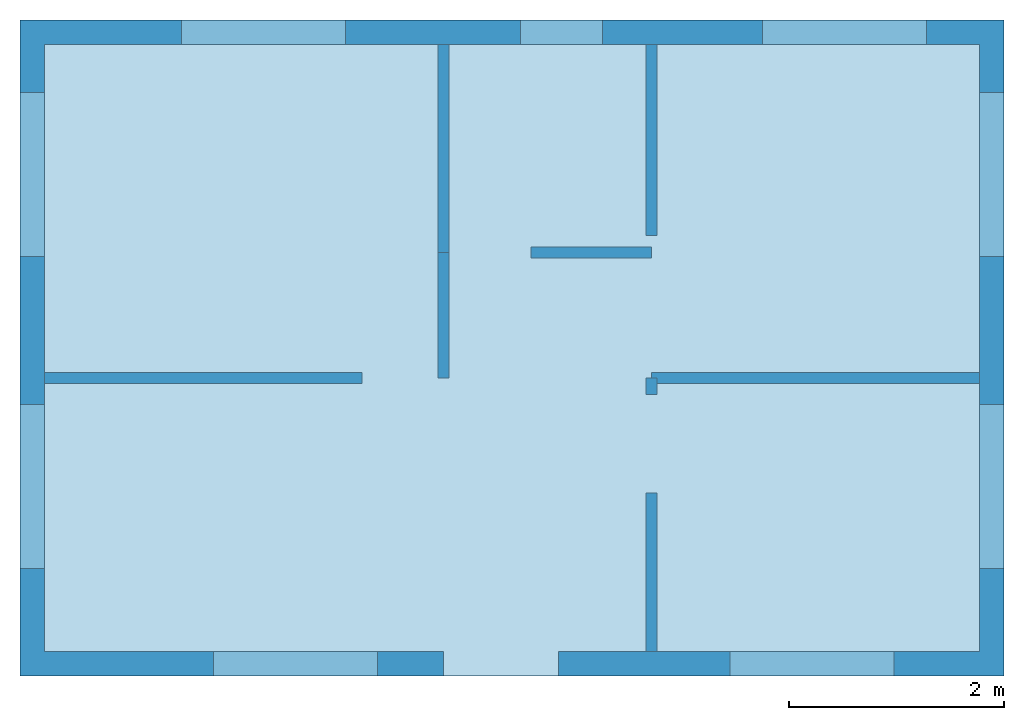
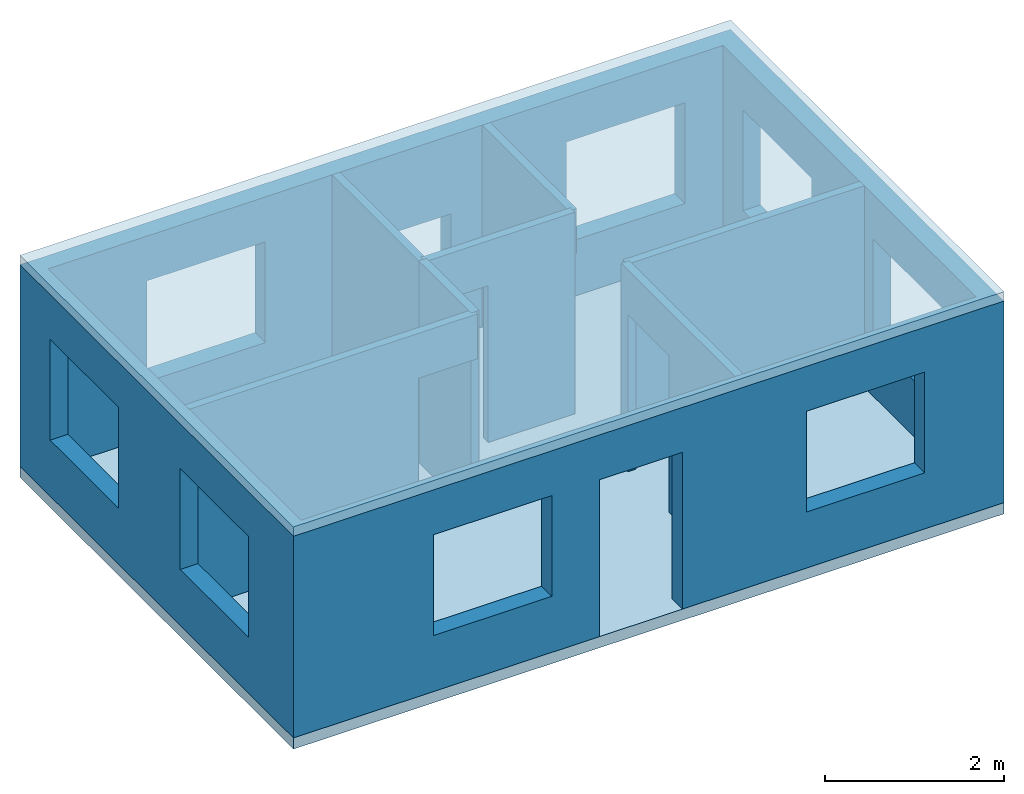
# One storey: 8 walls, 2 slabs, 14 openings.
"""IFC4 building model written with IfcOpenShell, lengths in metres."""

import ifcopenshell
import ifcopenshell.guid

model = None  # the IFC model being written
_history = None  # IfcOwnerHistory: only IFC2X3 demands one
_inside = {}  # id of a spatial element -> (the spatial element, [elements in it])
_under = {}  # id of a project, library or spatial element -> (it, [spatial elements below it])
_declared = {}  # id of a project -> (the project, [libraries it declares])
_typed = {}  # id of a type object -> (the type object, [elements of that type])
_made_of = {}  # id of a material, layer set ... -> (it, [elements and type objects made of it])


def new_model(schema):
    """Start an empty IFC model of exactly this schema.

    Asked for "IFC4X3", IfcOpenShell would pick the latest addendum, in which some entities
    have other attributes; the version numbers below select the first issue.
    IFC2X3 requires an IfcOwnerHistory on every rooted entity: one is made here for all.
    """
    global model, _history
    if schema == "IFC4X3":
        model = ifcopenshell.file(schema_version=(4, 3, 0, 0))
    else:
        model = ifcopenshell.file(schema=schema)
    _inside.clear()
    _under.clear()
    _declared.clear()
    _typed.clear()
    _made_of.clear()
    _history = None
    if model.schema == "IFC2X3":
        org = make("IfcOrganization", Name="unknown")
        user = make(
            "IfcPersonAndOrganization",
            ThePerson=make("IfcPerson", FamilyName="unknown"),
            TheOrganization=org,
        )
        app = make(
            "IfcApplication",
            ApplicationDeveloper=org,
            Version="unknown",
            ApplicationFullName="unknown",
            ApplicationIdentifier="unknown",
        )
        _history = make(
            "IfcOwnerHistory",
            OwningUser=user,
            OwningApplication=app,
            ChangeAction="ADDED",
            CreationDate=0,
        )
    return model


def make(cls, **values):
    """One entity of the class cls with the attributes given. An attribute that is None is left unset."""
    return model.create_entity(
        cls, **{name: value for name, value in values.items() if value is not None}
    )


def entity(cls, *values):
    """Any entity or typed value of the class cls, its attributes in the order of the schema. None: left unset."""
    e = model.create_entity(cls)
    for i, value in enumerate(values):
        if value is not None:
            e[i] = value
    return e


def rooted(cls, **values):
    """An entity with a GlobalId (a new one), such as an element, a storey or a relation."""
    return make(cls, GlobalId=ifcopenshell.guid.new(), OwnerHistory=_history, **values)


def si_unit(unit_type, name, prefix=None):
    """IfcSIUnit, for example si_unit("LENGTHUNIT", "METRE", prefix="MILLI")."""
    return make("IfcSIUnit", UnitType=unit_type, Prefix=prefix, Name=name)


def converted_unit(unit_type, name, factor, base, dimensions=None, offset=None):
    """IfcConversionBasedUnit, such as the inch: factor (a typed value) times the base unit."""
    return make(
        "IfcConversionBasedUnit"
        if offset is None
        else "IfcConversionBasedUnitWithOffset",
        ConversionOffset=offset,
        Dimensions=None
        if dimensions is None
        else entity("IfcDimensionalExponents", *dimensions),
        UnitType=unit_type,
        Name=name,
        ConversionFactor=make(
            "IfcMeasureWithUnit", ValueComponent=factor, UnitComponent=base
        ),
    )


def assignment(units):
    """IfcUnitAssignment: the units of a project."""
    return None if units is None else make("IfcUnitAssignment", Units=units)


def point(xyz):
    """IfcCartesianPoint."""
    return None if xyz is None else make("IfcCartesianPoint", Coordinates=xyz)


def direction(xyz):
    """IfcDirection."""
    return None if xyz is None else make("IfcDirection", DirectionRatios=xyz)


def frame(location, z_axis=None, x_axis=None):
    """IfcAxis2Placement3D, a coordinate frame: its origin and axes. An axis left out is left unset."""
    return make(
        "IfcAxis2Placement3D",
        Location=point(location),
        Axis=direction(z_axis),
        RefDirection=direction(x_axis),
    )


def frame_2d(location, x_axis=None):
    """IfcAxis2Placement2D, a coordinate frame in the plane: its origin and x axis."""
    return make(
        "IfcAxis2Placement2D", Location=point(location), RefDirection=direction(x_axis)
    )


def origin_with_axes():
    """The frame at (0, 0, 0) with the z axis (0, 0, 1) and the x axis (1, 0, 0) written out."""
    return frame((0.0, 0.0, 0.0), z_axis=(0.0, 0.0, 1.0), x_axis=(1.0, 0.0, 0.0))


def origin_2d_with_axis():
    """The frame at (0, 0) in the plane with the x axis (1, 0) written out."""
    return frame_2d((0.0, 0.0), x_axis=(1.0, 0.0))


def place(relative_to, where):
    """IfcLocalPlacement: puts the frame where relative to a parent placement (None: the world)."""
    return make(
        "IfcLocalPlacement", PlacementRelTo=relative_to, RelativePlacement=where
    )


def context(
    kind, dimensions, precision=None, world=None, true_north=None, identifier=None
):
    """IfcGeometricRepresentationContext, for example the 3D "Model" context."""
    return make(
        "IfcGeometricRepresentationContext",
        ContextIdentifier=identifier,
        ContextType=kind,
        CoordinateSpaceDimension=dimensions,
        Precision=precision,
        WorldCoordinateSystem=world,
        TrueNorth=true_north,
    )


def subcontext(parent, identifier, kind, view, scale=None):
    """IfcGeometricRepresentationSubContext, for example "Body" below "Model"."""
    return make(
        "IfcGeometricRepresentationSubContext",
        ContextIdentifier=identifier,
        ContextType=kind,
        ParentContext=parent,
        TargetScale=scale,
        TargetView=view,
    )


def project(units=None, contexts=None):
    """IfcProject with its units and contexts."""
    return rooted(
        "IfcProject",
        Name="project",
        RepresentationContexts=contexts,
        UnitsInContext=assignment(units),
    )


def spatial(cls, under=None, at=None, **own):
    """A site, building, storey or space (cls), placed at a placement, below another one or the project."""
    s = rooted(cls, ObjectPlacement=at, **own)
    if under is not None:
        _under.setdefault(under.id(), (under, []))[1].append(s)
    return s


def polyline(points):
    """IfcPolyline through the points."""
    return make("IfcPolyline", Points=[point(p) for p in points])


def profile(cls, at=None, kind="AREA", **sizes):
    """A parametric profile (cls). Its sizes go by their IFC names, for example OverallWidth=200.0."""
    return make(cls, ProfileType=kind, Position=at, **sizes)


def rectangle(**sizes):
    """IfcRectangleProfileDef."""
    return profile("IfcRectangleProfileDef", **sizes)


def outline(outer, holes=None, kind="AREA"):
    """IfcArbitraryClosedProfileDef: a profile drawn as a closed curve; with holes, ...WithVoids."""
    if holes is None:
        return make("IfcArbitraryClosedProfileDef", ProfileType=kind, OuterCurve=outer)
    return make(
        "IfcArbitraryProfileDefWithVoids",
        ProfileType=kind,
        OuterCurve=outer,
        InnerCurves=holes,
    )


def extrude(swept, where, along, depth):
    """IfcExtrudedAreaSolid: the profile swept, set in the frame where, extruded along a direction by depth."""
    return make(
        "IfcExtrudedAreaSolid",
        SweptArea=swept,
        Position=where,
        ExtrudedDirection=direction(along),
        Depth=depth,
    )


def faces_of(points, faces, orient=None, outer=None):
    """IfcFace entities. A face is a list of loops; a loop is a list of indices into points, from 0.

    orient and outer hold one flag for each loop. By default every Orientation is true, the
    first loop of a face is its IfcFaceOuterBound and the others are IfcFaceBound.
    """
    made = []
    for i, loops in enumerate(faces):
        bounds = []
        for j, loop in enumerate(loops):
            is_outer = j == 0 if outer is None else outer[i][j]
            bounds.append(
                make(
                    "IfcFaceOuterBound" if is_outer else "IfcFaceBound",
                    Bound=make("IfcPolyLoop", Polygon=[points[k] for k in loop]),
                    Orientation=True if orient is None else orient[i][j],
                )
            )
        made.append(make("IfcFace", Bounds=bounds))
    return made


def faceted_brep(points, faces, orient=None, outer=None, voids=None):
    """IfcFacetedBrep: a solid bounded by flat faces; with voids (closed shells), ...WithVoids."""
    shared = [point(p) for p in points]
    hull = make("IfcClosedShell", CfsFaces=faces_of(shared, faces, orient, outer))
    if voids is None:
        return make("IfcFacetedBrep", Outer=hull)
    return make(
        "IfcFacetedBrepWithVoids",
        Outer=hull,
        Voids=[
            make(cls, CfsFaces=faces_of(shared, fs, o, b)) for cls, fs, o, b in voids
        ],
    )


def shape(context_of_items, identifier, shape_type, items):
    """IfcShapeRepresentation: the items that make up one representation, for example the "Body"."""
    return make(
        "IfcShapeRepresentation",
        ContextOfItems=context_of_items,
        RepresentationIdentifier=identifier,
        RepresentationType=shape_type,
        Items=items,
    )


def made_of(thing, what):
    """Note that an element or type object is made of a material, layer set ...; save() writes the relation."""
    if what is not None:
        _made_of.setdefault(what.id(), (what, []))[1].append(thing)
    return thing


def element(
    cls,
    number,
    at=None,
    inside=None,
    cuts=None,
    type_object=None,
    material=None,
    context=None,
    identifier="Body",
    shape_type=None,
    held_by="IfcProductDefinitionShape",
    body=None,
    shapes=None,
    **own,
):
    """One element of the class cls, such as IfcWall. Its Tag is "e" and its number.

    at: its placement. inside: the storey or other place that contains it. cuts: it is an
    opening in that element (IfcRelVoidsElement). A single representation is given by context,
    identifier, shape_type and body (its items); several are given by shapes. held_by: the class
    of the entity that holds the representations. save() writes the other relations.
    """
    e = rooted(cls, Tag="e%d" % number, ObjectPlacement=at, **own)
    if body is not None:
        shapes = [shape(context, identifier, shape_type, body)]
    if shapes is not None:
        e.Representation = make(held_by, Representations=shapes)
    if inside is not None:
        _inside.setdefault(inside.id(), (inside, []))[1].append(e)
    if cuts is not None:
        rooted(
            "IfcRelVoidsElement", RelatingBuildingElement=cuts, RelatedOpeningElement=e
        )
    if type_object is not None:
        _typed.setdefault(type_object.id(), (type_object, []))[1].append(e)
    return made_of(e, material)


def aggregate(whole, parts):
    """IfcRelAggregates: a whole, such as a stair, and the parts it consists of."""
    return rooted("IfcRelAggregates", RelatingObject=whole, RelatedObjects=parts)


def save(model, path):
    """Write the relations noted so far, then the file.

    IfcRelAggregates (storeys below a building ...), IfcRelContainedInSpatialStructure (elements
    in a storey), IfcRelDefinesByType, IfcRelAssociatesMaterial and IfcRelDeclares: one each for
    every whole, place, type object, material and project.
    """
    for whole, parts in _under.values():
        aggregate(whole, parts)
    for where, things in _inside.values():
        rooted(
            "IfcRelContainedInSpatialStructure",
            RelatedElements=things,
            RelatingStructure=where,
        )
    for kind, things in _typed.values():
        rooted("IfcRelDefinesByType", RelatedObjects=things, RelatingType=kind)
    for what, things in _made_of.values():
        rooted("IfcRelAssociatesMaterial", RelatedObjects=things, RelatingMaterial=what)
    for by, libraries in _declared.values():
        rooted("IfcRelDeclares", RelatingContext=by, RelatedDefinitions=libraries)
    model.write(path)


model = new_model("IFC4")

# Units and contexts
model_context = context("Model", 3, precision=1e-05, world=origin_with_axes(), true_north=direction((6.12323399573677e-17, 1.0)))
body_context = subcontext(model_context, "Body", "Model", "MODEL_VIEW")
ifc_project = project(units=[si_unit("LENGTHUNIT", "METRE"), si_unit("AREAUNIT", "SQUARE_METRE"), si_unit("VOLUMEUNIT", "CUBIC_METRE"), converted_unit("PLANEANGLEUNIT", "DEGREE", entity("IfcPlaneAngleMeasure", 0.0174532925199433), si_unit("PLANEANGLEUNIT", "RADIAN"), dimensions=[0, 0, 0, 0, 0, 0, 0])], contexts=[model_context])

# Site, building, storey
site = spatial("IfcSite", under=ifc_project, Name="Site_House", CompositionType="COMPLEX")
building = spatial("IfcBuilding", under=site, Name="Building_House", CompositionType="COMPLEX")
storey = spatial("IfcBuildingStorey", under=building, Name="Storey_Ground_Floor", CompositionType="COMPLEX")

# Slabs
placement = place(None, origin_with_axes())
element("IfcSlab", 1, at=placement, inside=storey, Name="Slab_Floor_6in", context=body_context, shape_type="Brep", body=[
    faceted_brep([(0.0, 0.0, -0.1524), (0.0, 0.0, 0.0), (0.0, 6.096, 0.0), (0.0, 6.096, -0.1524), (9.144, 0.0, 0.0), (9.144, 0.0, -0.1524), (9.144, 6.096, -0.1524), (9.144, 6.096, 0.0)], [[[0, 1, 2, 3]], [[4, 5, 6, 7]], [[0, 5, 4, 1]], [[6, 3, 2, 7]], [[0, 3, 6, 5]], [[2, 1, 4, 7]]]),
])
element("IfcSlab", 2, at=placement, inside=storey, Name="Slab_Roof_5in", context=body_context, shape_type="Brep", body=[
    faceted_brep([(0.0, 0.0, 2.7432), (0.0, 0.0, 2.8702), (0.0, 6.096, 2.8702), (0.0, 6.096, 2.7432), (9.144, 0.0, 2.8702), (9.144, 0.0, 2.7432), (9.144, 6.096, 2.7432), (9.144, 6.096, 2.8702)], [[[0, 1, 2, 3]], [[4, 5, 6, 7]], [[0, 5, 4, 1]], [[6, 3, 2, 7]], [[0, 3, 6, 5]], [[2, 1, 4, 7]]]),
])

# Wall
element("IfcWall", 3, at=placement, inside=storey, Name="Wall_Int_Master_Toilet", PredefinedType="MOVABLE", context=body_context, shape_type="SweptSolid", body=[
    extrude(rectangle(XDim=1.9304, YDim=0.1016, at=frame_2d((0.0, 0.0), x_axis=(0.0, 1.0))), frame((3.937, 4.9022, 0.0), z_axis=(0.0, 0.0, 1.0), x_axis=(1.0, 0.0, 0.0)), (0.0, 0.0, 1.0), 2.7432),
])

# Wall, opening
wall_2 = element("IfcWall", 4, at=placement, inside=storey, Name="Wall_Int_Toilet_Bedroom", PredefinedType="MOVABLE", context=body_context, shape_type="SweptSolid", body=[
    extrude(rectangle(XDim=1.9304, YDim=0.1016, at=frame_2d((0.0, 0.0), x_axis=(0.0, 1.0))), frame((5.8674, 4.9022, 0.0), z_axis=(0.0, 0.0, 1.0), x_axis=(1.0, 0.0, 0.0)), (0.0, 0.0, 1.0), 2.7432),
])
element("IfcOpeningElement", 5, at=placement, cuts=wall_2, Name="Door_Bedroom", context=body_context, shape_type="Brep", body=[
    faceted_brep([(8.001, 3.18, 0.0), (3.7338, 3.18, 0.0), (3.7338, 4.0944, 0.0), (8.001, 4.0944, 0.0), (3.7338, 4.0944, 2.1336), (8.001, 4.0944, 2.1336), (3.7338, 3.18, 2.1336), (8.001, 3.18, 2.1336)], [[[0, 1, 2, 3]], [[3, 2, 4, 5]], [[5, 4, 6, 7]], [[7, 6, 1, 0]], [[0, 3, 5, 7]], [[2, 1, 6, 4]]]),
])

wall_3 = element("IfcWall", 6, at=placement, inside=storey, Name="Wall_Int_Master_Living", PredefinedType="MOVABLE", context=body_context, shape_type="SweptSolid", body=[
    extrude(rectangle(XDim=3.7084, YDim=0.1016, at=origin_2d_with_axis()), frame((2.0828, 2.7686, 0.0), z_axis=(0.0, 0.0, 1.0), x_axis=(1.0, 0.0, 0.0)), (0.0, 0.0, 1.0), 2.7432),
])
element("IfcOpeningElement", 7, at=placement, cuts=wall_3, Name="Door_Master_Bedroom", context=body_context, shape_type="Brep", body=[
    faceted_brep([(3.18, 0.635, 0.0), (3.18, 4.9022, 0.0), (4.0944, 4.9022, 0.0), (4.0944, 0.635, 0.0), (4.0944, 4.9022, 2.1336), (4.0944, 0.635, 2.1336), (3.18, 4.9022, 2.1336), (3.18, 0.635, 2.1336)], [[[0, 1, 2, 3]], [[3, 2, 4, 5]], [[5, 4, 6, 7]], [[7, 6, 1, 0]], [[0, 3, 5, 7]], [[2, 1, 6, 4]]]),
])

# Wall
element("IfcWall", 8, at=placement, inside=storey, Name="Wall_Int_Bedroom_Kitchen", PredefinedType="MOVABLE", context=body_context, shape_type="SweptSolid", body=[
    extrude(rectangle(XDim=3.048, YDim=0.1016, at=frame_2d((9.09494701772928e-13, 0.0), x_axis=(1.0, 0.0))), frame((7.3914, 2.7686, 0.0), z_axis=(0.0, 0.0, 1.0), x_axis=(1.0, 0.0, 0.0)), (0.0, 0.0, 1.0), 2.7432),
])

# Wall, opening
wall_5 = element("IfcWall", 9, at=placement, inside=storey, Name="Wall_Int_Living_Kitchen", PredefinedType="MOVABLE", context=body_context, shape_type="SweptSolid", body=[
    extrude(rectangle(XDim=2.54, YDim=0.1016, at=frame_2d((0.0, 0.0), x_axis=(0.0, 1.0))), frame((5.8674, 1.4986, 0.0), z_axis=(0.0, 0.0, 1.0), x_axis=(1.0, 0.0, 0.0)), (0.0, 0.0, 1.0), 2.7432),
])
element("IfcOpeningElement", 10, at=placement, cuts=wall_5, Name="Door_Kitchen", context=body_context, shape_type="Brep", body=[
    faceted_brep([(8.001, 1.7, 0.0), (3.7338, 1.7, 0.0), (3.7338, 2.6144, 0.0), (8.001, 2.6144, 0.0), (3.7338, 2.6144, 2.1336), (8.001, 2.6144, 2.1336), (3.7338, 1.7, 2.1336), (8.001, 1.7, 2.1336)], [[[0, 1, 2, 3]], [[3, 2, 4, 5]], [[5, 4, 6, 7]], [[7, 6, 1, 0]], [[0, 3, 5, 7]], [[2, 1, 6, 4]]]),
])

wall_6 = element("IfcWall", 11, at=placement, inside=storey, Name="Wall_Int_Toilet_South", PredefinedType="MOVABLE", context=body_context, shape_type="SweptSolid", body=[
    extrude(rectangle(XDim=1.9304, YDim=0.1016, at=frame_2d((-9.09494701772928e-13, 0.0), x_axis=(1.0, 0.0))), frame((4.9022, 3.937, 0.0), z_axis=(0.0, 0.0, 1.0), x_axis=(1.0, 0.0, 0.0)), (0.0, 0.0, 1.0), 2.7432),
])
element("IfcOpeningElement", 12, at=placement, cuts=wall_6, Name="Door_Toilet", context=body_context, shape_type="Brep", body=[
    faceted_brep([(3.9878, 1.8034, 0.0), (3.9878, 6.0706, 0.0), (4.7498, 6.0706, 0.0), (4.7498, 1.8034, 0.0), (4.7498, 6.0706, 2.1336), (4.7498, 1.8034, 2.1336), (3.9878, 6.0706, 2.1336), (3.9878, 1.8034, 2.1336)], [[[0, 1, 2, 3]], [[3, 2, 4, 5]], [[5, 4, 6, 7]], [[7, 6, 1, 0]], [[0, 3, 5, 7]], [[2, 1, 6, 4]]]),
])

# Wall
element("IfcWall", 13, at=placement, inside=storey, Name="Wall_Int_Central_Partition", PredefinedType="MOVABLE", context=body_context, shape_type="SweptSolid", body=[
    extrude(rectangle(XDim=1.1684, YDim=0.1016, at=frame_2d((0.0, -4.54747350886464e-13), x_axis=(0.0, 1.0))), frame((3.937, 3.3528, 0.0), z_axis=(0.0, 0.0, 1.0), x_axis=(1.0, 0.0, 0.0)), (0.0, 0.0, 1.0), 2.7432),
])

# Wall, openings
wall_8 = element("IfcWall", 14, at=placement, inside=storey, Name="Wall_Ext_Perimeter", PredefinedType="MOVABLE", context=body_context, shape_type="SweptSolid", body=[
    extrude(outline(polyline([(-4.57199999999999, -3.048), (4.57200000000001, -3.048), (4.57200000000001, 3.048), (-4.57199999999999, 3.048), (-4.57199999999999, -3.048)]), holes=[polyline([(-4.34339999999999, -2.8194), (4.34340000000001, -2.8194), (4.34340000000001, 2.8194), (-4.34339999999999, 2.8194), (-4.34339999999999, -2.8194)])]), frame((4.57199999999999, 3.048, 0.0), z_axis=(0.0, 0.0, 1.0), x_axis=(1.0, 0.0, 0.0)), (0.0, 0.0, 1.0), 2.7432),
])
element("IfcOpeningElement", 15, at=placement, cuts=wall_8, Name="Door_Main_Entrance", context=body_context, shape_type="Brep", body=[
    faceted_brep([(3.937, -2.0193, 0.0), (3.937, 2.2479, 0.0), (5.0038, 2.2479, 0.0), (5.0038, -2.0193, 0.0), (5.0038, 2.2479, 2.1336), (5.0038, -2.0193, 2.1336), (3.937, 2.2479, 2.1336), (3.937, -2.0193, 2.1336)], [[[0, 1, 2, 3]], [[3, 2, 4, 5]], [[5, 4, 6, 7]], [[7, 6, 1, 0]], [[0, 3, 5, 7]], [[2, 1, 6, 4]]]),
])
element("IfcOpeningElement", 16, at=placement, cuts=wall_8, Name="Window_Master_North", context=body_context, shape_type="Brep", body=[
    faceted_brep([(1.5, 4.4577, 0.762), (1.5, 7.5057, 0.762), (3.024, 7.5057, 0.762), (3.024, 4.4577, 0.762), (3.024, 7.5057, 2.1336), (3.024, 4.4577, 2.1336), (1.5, 7.5057, 2.1336), (1.5, 4.4577, 2.1336)], [[[0, 1, 2, 3]], [[3, 2, 4, 5]], [[5, 4, 6, 7]], [[7, 6, 1, 0]], [[0, 3, 5, 7]], [[2, 1, 6, 4]]]),
])
element("IfcOpeningElement", 17, at=placement, cuts=wall_8, Name="Window_Toilet_North", context=body_context, shape_type="Brep", body=[
    faceted_brep([(4.65, 5.0673, 0.762), (4.65, 6.8961, 0.762), (5.412, 6.8961, 0.762), (5.412, 5.0673, 0.762), (5.412, 6.8961, 1.6764), (5.412, 5.0673, 1.6764), (4.65, 6.8961, 1.6764), (4.65, 5.0673, 1.6764)], [[[0, 1, 2, 3]], [[3, 2, 4, 5]], [[5, 4, 6, 7]], [[7, 6, 1, 0]], [[0, 3, 5, 7]], [[2, 1, 6, 4]]]),
])
element("IfcOpeningElement", 18, at=placement, cuts=wall_8, Name="Window_Bedroom_North", context=body_context, shape_type="Brep", body=[
    faceted_brep([(6.9, 4.4577, 0.762), (6.9, 7.5057, 0.762), (8.424, 7.5057, 0.762), (8.424, 4.4577, 0.762), (8.424, 7.5057, 2.1336), (8.424, 4.4577, 2.1336), (6.9, 7.5057, 2.1336), (6.9, 4.4577, 2.1336)], [[[0, 1, 2, 3]], [[3, 2, 4, 5]], [[5, 4, 6, 7]], [[7, 6, 1, 0]], [[0, 3, 5, 7]], [[2, 1, 6, 4]]]),
])
element("IfcOpeningElement", 19, at=placement, cuts=wall_8, Name="Window_Master_West", context=body_context, shape_type="Brep", body=[
    faceted_brep([(1.6383, 3.9, 0.762), (-1.4097, 3.9, 0.762), (-1.4097, 5.424, 0.762), (1.6383, 5.424, 0.762), (-1.4097, 5.424, 2.1336), (1.6383, 5.424, 2.1336), (-1.4097, 3.9, 2.1336), (1.6383, 3.9, 2.1336)], [[[0, 1, 2, 3]], [[3, 2, 4, 5]], [[5, 4, 6, 7]], [[7, 6, 1, 0]], [[0, 3, 5, 7]], [[2, 1, 6, 4]]]),
])
element("IfcOpeningElement", 20, at=placement, cuts=wall_8, Name="Window_Living_West", context=body_context, shape_type="Brep", body=[
    faceted_brep([(1.6383, 1.0, 0.762), (-1.4097, 1.0, 0.762), (-1.4097, 2.524, 0.762), (1.6383, 2.524, 0.762), (-1.4097, 2.524, 2.1336), (1.6383, 2.524, 2.1336), (-1.4097, 1.0, 2.1336), (1.6383, 1.0, 2.1336)], [[[0, 1, 2, 3]], [[3, 2, 4, 5]], [[5, 4, 6, 7]], [[7, 6, 1, 0]], [[0, 3, 5, 7]], [[2, 1, 6, 4]]]),
])
element("IfcOpeningElement", 21, at=placement, cuts=wall_8, Name="Window_Bedroom_East", context=body_context, shape_type="Brep", body=[
    faceted_brep([(10.5537, 3.9, 0.762), (7.5057, 3.9, 0.762), (7.5057, 5.424, 0.762), (10.5537, 5.424, 0.762), (7.5057, 5.424, 2.1336), (10.5537, 5.424, 2.1336), (7.5057, 3.9, 2.1336), (10.5537, 3.9, 2.1336)], [[[0, 1, 2, 3]], [[3, 2, 4, 5]], [[5, 4, 6, 7]], [[7, 6, 1, 0]], [[0, 3, 5, 7]], [[2, 1, 6, 4]]]),
])
element("IfcOpeningElement", 22, at=placement, cuts=wall_8, Name="Window_Kitchen_East", context=body_context, shape_type="Brep", body=[
    faceted_brep([(10.5537, 1.0, 0.762), (7.5057, 1.0, 0.762), (7.5057, 2.524, 0.762), (10.5537, 2.524, 0.762), (7.5057, 2.524, 2.1336), (10.5537, 2.524, 2.1336), (7.5057, 1.0, 2.1336), (10.5537, 1.0, 2.1336)], [[[0, 1, 2, 3]], [[3, 2, 4, 5]], [[5, 4, 6, 7]], [[7, 6, 1, 0]], [[0, 3, 5, 7]], [[2, 1, 6, 4]]]),
])
element("IfcOpeningElement", 23, at=placement, cuts=wall_8, Name="Window_Living_South", context=body_context, shape_type="Brep", body=[
    faceted_brep([(1.8, -1.4097, 0.762), (1.8, 1.6383, 0.762), (3.324, 1.6383, 0.762), (3.324, -1.4097, 0.762), (3.324, 1.6383, 2.1336), (3.324, -1.4097, 2.1336), (1.8, 1.6383, 2.1336), (1.8, -1.4097, 2.1336)], [[[0, 1, 2, 3]], [[3, 2, 4, 5]], [[5, 4, 6, 7]], [[7, 6, 1, 0]], [[0, 3, 5, 7]], [[2, 1, 6, 4]]]),
])
element("IfcOpeningElement", 24, at=placement, cuts=wall_8, Name="Window_Kitchen_South", context=body_context, shape_type="Brep", body=[
    faceted_brep([(6.6, -1.4097, 0.762), (6.6, 1.6383, 0.762), (8.124, 1.6383, 0.762), (8.124, -1.4097, 0.762), (8.124, 1.6383, 2.1336), (8.124, -1.4097, 2.1336), (6.6, 1.6383, 2.1336), (6.6, -1.4097, 2.1336)], [[[0, 1, 2, 3]], [[3, 2, 4, 5]], [[5, 4, 6, 7]], [[7, 6, 1, 0]], [[0, 3, 5, 7]], [[2, 1, 6, 4]]]),
])

save(model, "model.ifc")
